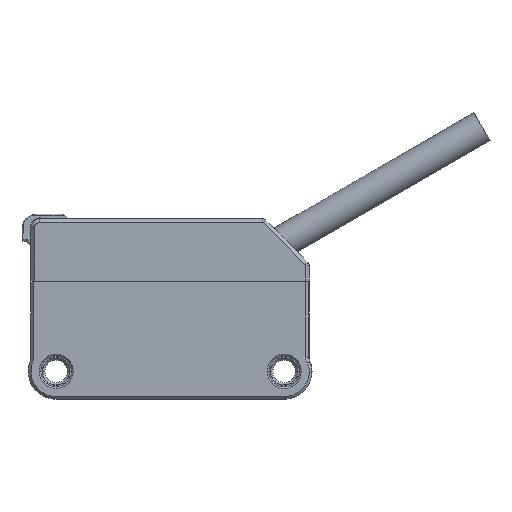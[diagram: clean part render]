
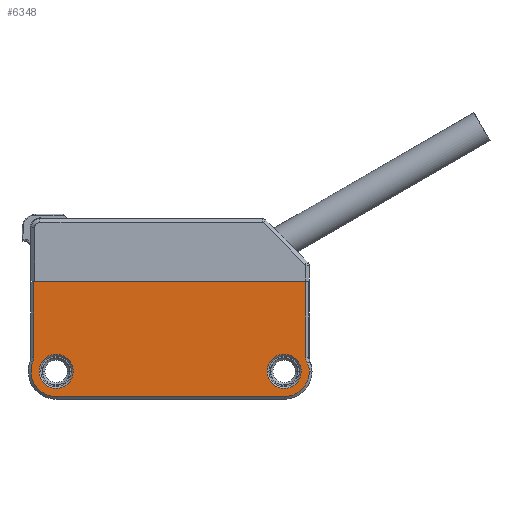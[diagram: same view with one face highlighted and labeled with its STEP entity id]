
A CAD part, front view. The second image highlights one B-rep face of the part: STEP entity #6348.
In plain terms, the highlighted planar face has unit normal (0, -1, 0).
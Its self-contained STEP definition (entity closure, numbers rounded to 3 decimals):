
#1375=DIRECTION('',(0.,0.,-1.));
#1376=VECTOR('',#1375,8.449);
#1377=CARTESIAN_POINT('',(27.21,-6.,0.2));
#1378=LINE('',#1377,#1376);
#1379=CARTESIAN_POINT('',(27.21,-6.,
-8.249));
#1380=CARTESIAN_POINT('',(27.21,-6.,
-8.318));
#1381=CARTESIAN_POINT('',(27.221,-6.,
-8.454));
#1382=CARTESIAN_POINT('',(27.27,-6.,
-8.656));
#1383=CARTESIAN_POINT('',(27.323,-6.,
-8.782));
#1384=CARTESIAN_POINT('',(27.354,-6.,
-8.844));
#1386=CARTESIAN_POINT('',(27.354,-6.,
-8.844));
#1387=CARTESIAN_POINT('',(27.405,-6.,
-8.943));
#1388=CARTESIAN_POINT('',(27.491,-6.,
-9.147));
#1389=CARTESIAN_POINT('',(27.574,-6.,
-9.472));
#1390=CARTESIAN_POINT('',(27.597,-6.,
-9.692));
#1391=CARTESIAN_POINT('',(27.6,-6.,
-9.804));
#1393=CARTESIAN_POINT('',(24.8,-6.,-9.8));
#1394=DIRECTION('',(0.,1.,0.));
#1395=DIRECTION('',(1.,0.,-0.001));
#1396=AXIS2_PLACEMENT_3D('',#1393,#1394,#1395);
#1398=DIRECTION('',(-1.,0.,0.));
#1399=VECTOR('',#1398,25.4);
#1400=CARTESIAN_POINT('',(24.8,-6.,
-12.6));
#1401=LINE('',#1400,#1399);
#1402=CARTESIAN_POINT('',(-0.6,-6.,-9.8));
#1403=DIRECTION('',(0.,1.,0.));
#1404=DIRECTION('',(0.,0.,-1.));
#1405=AXIS2_PLACEMENT_3D('',#1402,#1403,#1404);
#1407=CARTESIAN_POINT('',(-4.4,-6.,-8.261));
#1408=DIRECTION('',(0.,-1.,0.));
#1409=DIRECTION('',(0.927,0.,-0.375));
#1410=AXIS2_PLACEMENT_3D('',#1407,#1408,#1409);
#1412=DIRECTION('',(0.,0.,1.));
#1413=VECTOR('',#1412,8.461);
#1414=CARTESIAN_POINT('',(-3.1,-6.,
-8.261));
#1415=LINE('',#1414,#1413);
#1416=DIRECTION('',(1.,0.,0.));
#1417=VECTOR('',#1416,30.31);
#1418=CARTESIAN_POINT('',(-3.1,-6.,0.2));
#1419=LINE('',#1418,#1417);
#1420=CARTESIAN_POINT('',(-0.6,-6.,-9.8));
#1421=DIRECTION('',(0.,-1.,0.));
#1422=DIRECTION('',(0.,0.,-1.));
#1423=AXIS2_PLACEMENT_3D('',#1420,#1421,#1422);
#1425=CARTESIAN_POINT('',(-0.6,-6.,-9.8));
#1426=DIRECTION('',(0.,-1.,0.));
#1427=DIRECTION('',(0.,0.,1.));
#1428=AXIS2_PLACEMENT_3D('',#1425,#1426,#1427);
#1430=CARTESIAN_POINT('',(24.8,-6.,-9.8));
#1431=DIRECTION('',(0.,-1.,0.));
#1432=DIRECTION('',(0.,0.,-1.));
#1433=AXIS2_PLACEMENT_3D('',#1430,#1431,#1432);
#1435=CARTESIAN_POINT('',(24.8,-6.,-9.8));
#1436=DIRECTION('',(0.,-1.,0.));
#1437=DIRECTION('',(0.,0.,1.));
#1438=AXIS2_PLACEMENT_3D('',#1435,#1436,#1437);
#4098=CARTESIAN_POINT('',(27.21,-6.,0.2));
#4099=VERTEX_POINT('',#4098);
#4100=CARTESIAN_POINT('',(-3.1,-6.,0.2));
#4101=VERTEX_POINT('',#4100);
#4143=CARTESIAN_POINT('',(-3.1,-6.,
-8.261));
#4144=VERTEX_POINT('',#4143);
#4145=CARTESIAN_POINT('',(27.21,-6.,
-8.249));
#4146=VERTEX_POINT('',#4145);
#4147=VERTEX_POINT('',#1384);
#4148=VERTEX_POINT('',#1391);
#4149=CARTESIAN_POINT('',(24.8,-6.,-12.6));
#4150=VERTEX_POINT('',#4149);
#4151=CARTESIAN_POINT('',(-0.6,-6.,
-12.6));
#4152=VERTEX_POINT('',#4151);
#4153=CARTESIAN_POINT('',(-3.195,-6.,-8.749));
#4154=VERTEX_POINT('',#4153);
#4155=CARTESIAN_POINT('',(-0.6,-6.,-11.7));
#4156=CARTESIAN_POINT('',(-0.6,-6.,-7.9));
#4157=VERTEX_POINT('',#4155);
#4158=VERTEX_POINT('',#4156);
#4159=CARTESIAN_POINT('',(24.8,-6.,-11.7));
#4160=CARTESIAN_POINT('',(24.8,-6.,-7.9));
#4161=VERTEX_POINT('',#4159);
#4162=VERTEX_POINT('',#4160);
#6313=CARTESIAN_POINT('',(12.1,-6.,-6.2));
#6314=DIRECTION('',(0.,1.,0.));
#6315=DIRECTION('',(1.,0.,0.));
#6316=AXIS2_PLACEMENT_3D('',#6313,#6314,#6315);
#6317=PLANE('',#6316);
#6319=ORIENTED_EDGE('',*,*,#6318,.T.);
#6321=ORIENTED_EDGE('',*,*,#6320,.T.);
#6323=ORIENTED_EDGE('',*,*,#6322,.T.);
#6325=ORIENTED_EDGE('',*,*,#6324,.T.);
#6327=ORIENTED_EDGE('',*,*,#6326,.T.);
#6329=ORIENTED_EDGE('',*,*,#6328,.T.);
#6331=ORIENTED_EDGE('',*,*,#6330,.T.);
#6332=ORIENTED_EDGE('',*,*,#6305,.T.);
#6333=ORIENTED_EDGE('',*,*,#6187,.T.);
#6334=EDGE_LOOP('',(#6319,#6321,#6323,#6325,#6327,#6329,#6331,#6332,#6333));
#6335=FACE_OUTER_BOUND('',#6334,.F.);
#6337=ORIENTED_EDGE('',*,*,#6336,.T.);
#6339=ORIENTED_EDGE('',*,*,#6338,.T.);
#6340=EDGE_LOOP('',(#6337,#6339));
#6341=FACE_BOUND('',#6340,.F.);
#6343=ORIENTED_EDGE('',*,*,#6342,.T.);
#6345=ORIENTED_EDGE('',*,*,#6344,.T.);
#6346=EDGE_LOOP('',(#6343,#6345));
#6347=FACE_BOUND('',#6346,.F.);
#6348=ADVANCED_FACE('',(#6335,#6341,#6347),#6317,.F.);
#1385=B_SPLINE_CURVE_WITH_KNOTS('',3,(#1379,#1380,#1381,#1382,#1383,#1384),
.UNSPECIFIED.,.F.,.F.,(4,1,1,4),(0.,0.333,0.667,1.),
.UNSPECIFIED.);
#1392=B_SPLINE_CURVE_WITH_KNOTS('',3,(#1386,#1387,#1388,#1389,#1390,#1391),
.UNSPECIFIED.,.F.,.F.,(4,1,1,4),(0.,0.333,0.667,1.),
.UNSPECIFIED.);
#1397=CIRCLE('',#1396,2.8);
#1406=CIRCLE('',#1405,2.8);
#1411=CIRCLE('',#1410,1.3);
#1424=CIRCLE('',#1423,1.9);
#1429=CIRCLE('',#1428,1.9);
#1434=CIRCLE('',#1433,1.9);
#1439=CIRCLE('',#1438,1.9);
#6187=EDGE_CURVE('',#4101,#4099,#1419,.T.);
#6305=EDGE_CURVE('',#4144,#4101,#1415,.T.);
#6318=EDGE_CURVE('',#4099,#4146,#1378,.T.);
#6320=EDGE_CURVE('',#4146,#4147,#1385,.T.);
#6322=EDGE_CURVE('',#4147,#4148,#1392,.T.);
#6324=EDGE_CURVE('',#4148,#4150,#1397,.T.);
#6326=EDGE_CURVE('',#4150,#4152,#1401,.T.);
#6328=EDGE_CURVE('',#4152,#4154,#1406,.T.);
#6330=EDGE_CURVE('',#4154,#4144,#1411,.T.);
#6336=EDGE_CURVE('',#4157,#4158,#1424,.T.);
#6338=EDGE_CURVE('',#4158,#4157,#1429,.T.);
#6342=EDGE_CURVE('',#4161,#4162,#1434,.T.);
#6344=EDGE_CURVE('',#4162,#4161,#1439,.T.);
